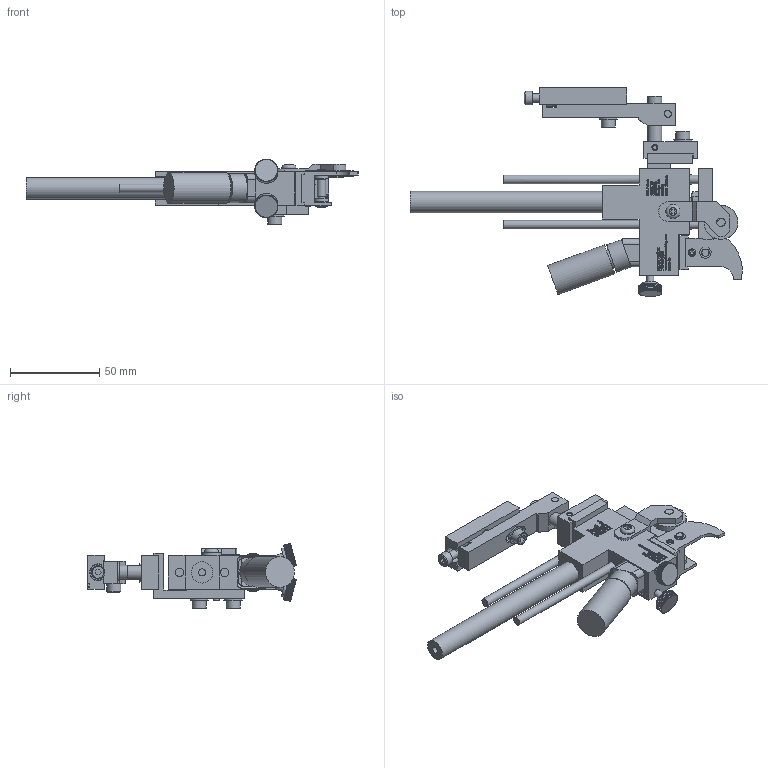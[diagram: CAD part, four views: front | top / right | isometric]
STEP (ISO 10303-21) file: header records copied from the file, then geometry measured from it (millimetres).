
FILE_DESCRIPTION((''),'2;1');
FILE_NAME('C:\Documents and Settings\Ron\My Documents\Inventor\Sprinter Drawing\Machines in Inventor\Model 44\Type\Ext Str\E1\Brkt\Ret\Model 44 ES1 Type Ret w brkt.stp','2009-01-14T12:06:44',('Ron'),(''),'Autodesk Inventor 2008','Autodesk Inventor 2008','');
FILE_SCHEMA(('AUTOMOTIVE_DESIGN { 1 0 10303 214 1 1 1 1 }'));
Length unit declared in the file: inch
Products named in the file (1): Model 44 ES1 Type  Ret w brkt
Bounding box: 186.4 x 117.12 x 36.82 mm (x, y, z)
Volume: 107874.1 mm3; surface area: 52386.2 mm2
Topology: 31 solids, 31 shells, 6242 faces, 15520 edges, 9600 vertices
Faces by surface type: plane 4393, bspline 1323, cylinder 474, cone 48, torus 4
Full cylindrical faces by diameter (mm): 3.175 x4, 3.302 x1, 3.505 x1, 3.962 x1, 4.064 x7, 4.166 x1, 4.699 x1, 4.75 x4, 4.775 x1, 4.826 x7, 5.08 x1, 5.156 x5, 5.207 x2, 5.41 x2, 6.096 x1, 6.68 x1, 7.239 x1, 7.353 x1, 7.62 x1, 7.925 x7, 7.938 x1, 8.128 x1, 9.017 x1, 9.525 x2, 10.312 x4, 10.922 x1, 11.036 x1, 11.938 x2, 14.478 x1, 16.256 x1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
Entity records: 198914 total; most frequent: CARTESIAN_POINT 54385, ORIENTED_EDGE 30578, DIRECTION 23748, EDGE_CURVE 15289, VECTOR 11514, LINE 11514, VERTEX_POINT 9528, EDGE_LOOP 6803
